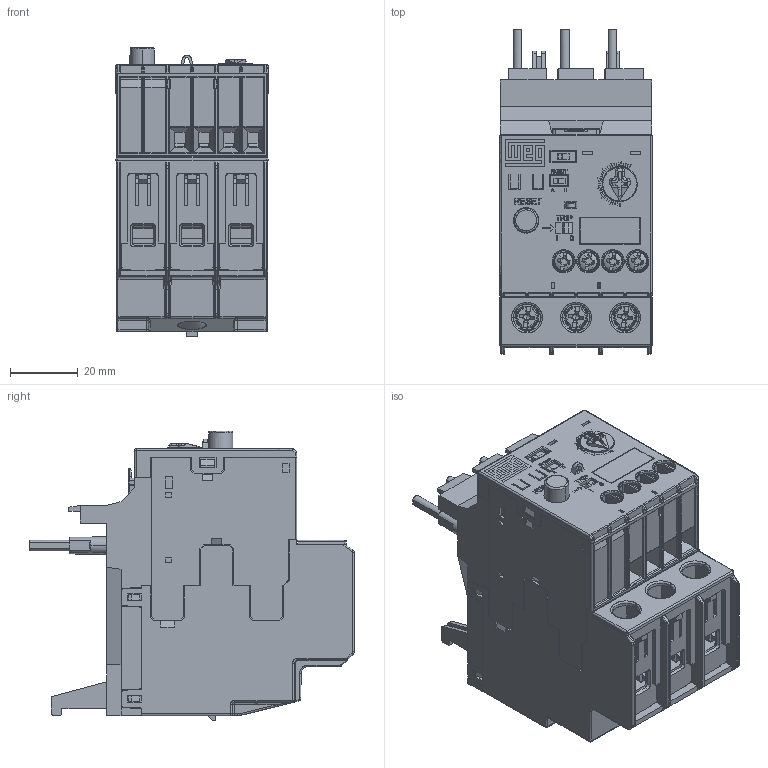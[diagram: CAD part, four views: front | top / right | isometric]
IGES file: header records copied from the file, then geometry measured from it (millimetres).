
Start section: SolidWorks IGES file using analytic representation for surfaces
Global section: file name: Q:\GROUPS\BR_SC_JGS_WA_TECNICO\ENG\Usuarios\Rodrigob\A\Reles Eletronicos\RWB40E\RWB40E.IGS; native system: SolidWorks 2012; preprocessor: SolidWorks 2012; author: rodrigob; date: 130805.160422; units: millimetre
Bounding box: 45 x 96 x 85.6 mm (x, y, z)
Surface area: 74022.3 mm2 (no closed solid volume)
Topology: 0 solids, 0 shells, 3774 faces, 29671 edges, 29603 vertices
Faces by surface type: bspline 2779, revolution 995
